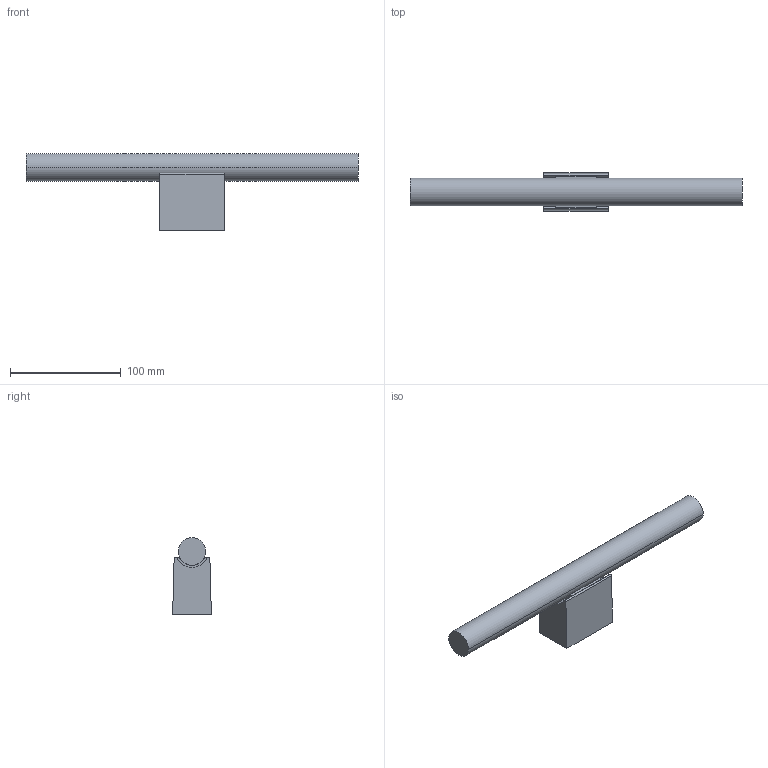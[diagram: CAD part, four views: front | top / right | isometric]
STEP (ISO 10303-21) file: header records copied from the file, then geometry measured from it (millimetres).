
FILE_DESCRIPTION(/* description */ (''),/* implementation_level */ '2;1');
FILE_NAME(/* name */ 'calma_300_walllamp.step',/* time_stamp */ '2024-12-14T23:50:16+01:00',/* author */ ('RenataManzini'),/* organization */ (''),/* preprocessor_version */ 'ST-DEVELOPER v20',/* originating_system */ 'AutoCAD Mechanical',/* authorisation */ '');
FILE_SCHEMA (('AUTOMOTIVE_DESIGN { 1 0 10303 214 3 1 1 }'));
Length unit declared in the file: millimetre
Products named in the file (2): Product; FamilyGeomCombination_724421-_3D_
Assembly tree (1 placements, depth 2):
  Product
    FamilyGeomCombination_724421-_3D_
Bounding box: 300 x 34.98 x 69.42 mm (x, y, z)
Volume: 239812.9 mm3; surface area: 40823.2 mm2
Topology: 3 solids, 3 shells, 34 faces, 75 edges, 53 vertices
Faces by surface type: cylinder 19, plane 15
Entity records: 1005 total; most frequent: DIRECTION 188, CARTESIAN_POINT 166, ORIENTED_EDGE 144, AXIS2_PLACEMENT_3D 76, EDGE_CURVE 72, VERTEX_POINT 48, CIRCLE 39, EDGE_LOOP 38
